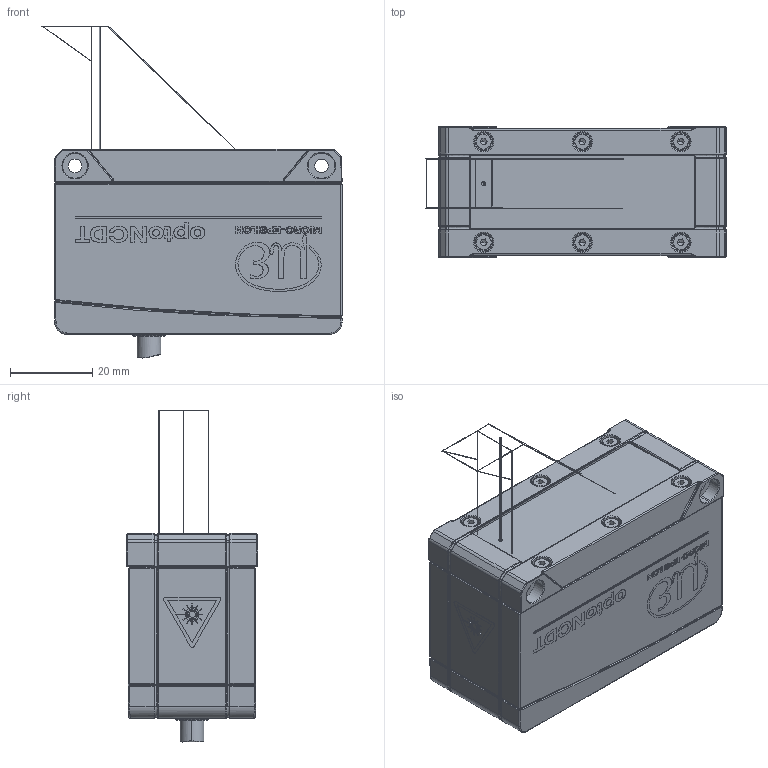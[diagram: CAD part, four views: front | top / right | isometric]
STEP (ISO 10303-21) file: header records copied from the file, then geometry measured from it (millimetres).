
FILE_DESCRIPTION (( 'STEP AP214' ), '1' );
FILE_NAME ('free_space_optoNCDT_1900-10.STEP', '2020-05-06T14:25:34', ( '' ), ( '' ), 'SwSTEP 2.0', 'SolidWorks 2018', '' );
FILE_SCHEMA (( 'AUTOMOTIVE_DESIGN' ));
Length unit declared in the file: millimetre
Products named in the file (2): free_space_optoNCDT_1900-10
Bounding box: 73.26 x 32 x 80.84 mm (x, y, z)
Volume: 95767.1 mm3; surface area: 15510.4 mm2
Topology: 4 solids, 4 shells, 2226 faces, 5816 edges, 3716 vertices
Faces by surface type: plane 964, bspline 813, cylinder 267, torus 87, cone 87, sphere 8
Entity records: 107225 total; most frequent: CARTESIAN_POINT 33891, ORIENTED_EDGE 11576, DIRECTION 7580, EDGE_CURVE 5788, VERTEX_POINT 3716, VECTOR 3302, LINE 3302, EDGE_LOOP 2378
